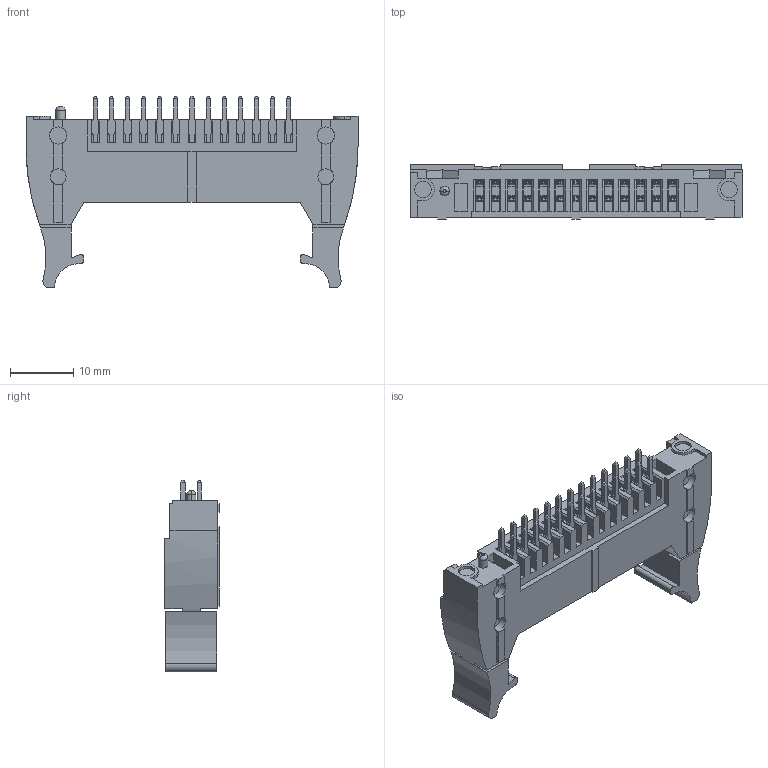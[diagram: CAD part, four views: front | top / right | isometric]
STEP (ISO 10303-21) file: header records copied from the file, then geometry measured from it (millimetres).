
FILE_DESCRIPTION(('CATIA V5 STEP Exchange'),'2;1');
FILE_NAME('Z:\3D文件\小黄（备用文件夹）\条形连接器-小黄\XG\2xNAS\HC-XG-2x13AS-05（2.54 双排 牛角直针 带柱-HCTL）.stp','2025-06-04T09:53:39+00:00',('none'),('none'),'CATIA Version 5 Release 20 GA (IN-10)','CATIA V5 STEP AP203','none');
FILE_SCHEMA(('CONFIG_CONTROL_DESIGN'));
Length unit declared in the file: millimetre
Products named in the file (1): Part2
Bounding box: 52.3 x 8.65 x 30.2 mm (x, y, z)
Volume: 4494.3 mm3; surface area: 5272.4 mm2
Topology: 1 solids, 1 shells, 1215 faces, 3250 edges, 2094 vertices
Faces by surface type: plane 965, cylinder 248, revolution 2
Entity records: 33010 total; most frequent: ORIENTED_EDGE 6500, CARTESIAN_POINT 5804, DIRECTION 4146, EDGE_CURVE 3250, VECTOR 2724, LINE 2724, VERTEX_POINT 2094, EDGE_LOOP 1276
